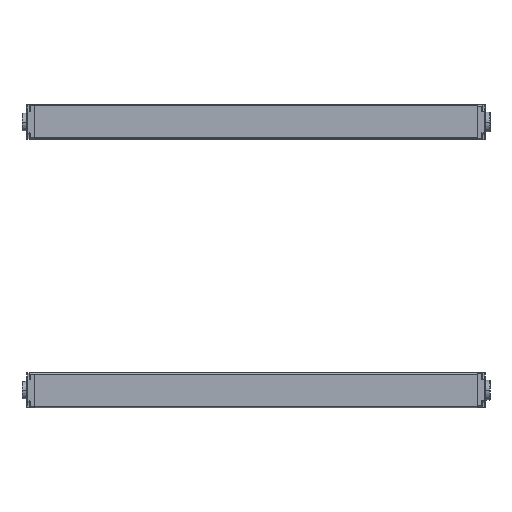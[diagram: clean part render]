
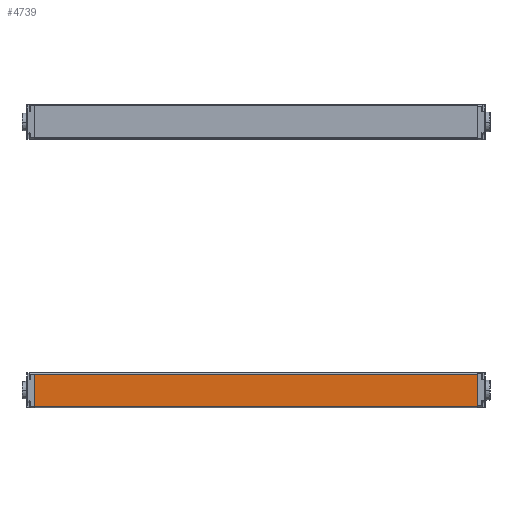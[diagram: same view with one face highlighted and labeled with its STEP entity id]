
A CAD part, left-side view. The second image highlights one B-rep face of the part: STEP entity #4739.
In plain terms, the highlighted planar face has unit normal (-1, 0, -0.009) as drawn and (1, 0, 0) by its records, which use the part's own axes.
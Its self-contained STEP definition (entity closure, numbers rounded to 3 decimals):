
#11 = AXIS2_PLACEMENT_3D ( 'NONE', #13732, #1241, #6802 ) ;
#829 = DIRECTION ( 'NONE',  ( 0., 0., -1. ) ) ;
#1241 = DIRECTION ( 'NONE',  ( -1., 0., 0. ) ) ;
#1402 = DIRECTION ( 'NONE',  ( 0., -1., 0. ) ) ;
#1957 = VERTEX_POINT ( 'NONE', #15575 ) ;
#1980 = DIRECTION ( 'NONE',  ( 0., 0., -1. ) ) ;
#2598 = FACE_OUTER_BOUND ( 'NONE', #8039, .T. ) ;
#3167 = CARTESIAN_POINT ( 'NONE',  ( 15., 0., -16.693 ) ) ;
#4739 = ADVANCED_FACE ( 'NONE', ( #2598 ), #8166, .F. ) ;
#4782 = LINE ( 'NONE', #10339, #6300 ) ;
#5016 = ORIENTED_EDGE ( 'NONE', *, *, #16594, .F. ) ;
#6300 = VECTOR ( 'NONE', #15883, 1000. ) ;
#6802 = DIRECTION ( 'NONE',  ( 0., 0., 1. ) ) ;
#6993 = VERTEX_POINT ( 'NONE', #3167 ) ;
#7069 = EDGE_CURVE ( 'NONE', #1957, #6993, #8922, .T. ) ;
#7585 = ORIENTED_EDGE ( 'NONE', *, *, #7069, .T. ) ;
#7773 = LINE ( 'NONE', #13325, #13675 ) ;
#8039 = EDGE_LOOP ( 'NONE', ( #7585, #16631, #5016, #8091 ) ) ;
#8091 = ORIENTED_EDGE ( 'NONE', *, *, #15615, .T. ) ;
#8166 = PLANE ( 'NONE',  #11 ) ;
#8340 = LINE ( 'NONE', #13892, #12191 ) ;
#8922 = LINE ( 'NONE', #14472, #16991 ) ;
#10181 = EDGE_CURVE ( 'NONE', #6993, #17111, #4782, .T. ) ;
#10339 = CARTESIAN_POINT ( 'NONE',  ( 15., 380., -16.693 ) ) ;
#12191 = VECTOR ( 'NONE', #1402, 1000. ) ;
#13325 = CARTESIAN_POINT ( 'NONE',  ( 15., 380., -16.9 ) ) ;
#13675 = VECTOR ( 'NONE', #829, 1000. ) ;
#13732 = CARTESIAN_POINT ( 'NONE',  ( 15., 380., -16.9 ) ) ;
#13757 = VERTEX_POINT ( 'NONE', #17383 ) ;
#13892 = CARTESIAN_POINT ( 'NONE',  ( 15., 380., 10.9 ) ) ;
#14472 = CARTESIAN_POINT ( 'NONE',  ( 15., 0., -16.9 ) ) ;
#15575 = CARTESIAN_POINT ( 'NONE',  ( 15., 0., 10.9 ) ) ;
#15615 = EDGE_CURVE ( 'NONE', #13757, #1957, #8340, .T. ) ;
#15883 = DIRECTION ( 'NONE',  ( 0., 1., 0. ) ) ;
#16594 = EDGE_CURVE ( 'NONE', #13757, #17111, #7773, .T. ) ;
#16631 = ORIENTED_EDGE ( 'NONE', *, *, #10181, .T. ) ;
#16991 = VECTOR ( 'NONE', #1980, 1000. ) ;
#17111 = VERTEX_POINT ( 'NONE', #17700 ) ;
#17383 = CARTESIAN_POINT ( 'NONE',  ( 15., 380., 10.9 ) ) ;
#17700 = CARTESIAN_POINT ( 'NONE',  ( 15., 380., -16.693 ) ) ;
